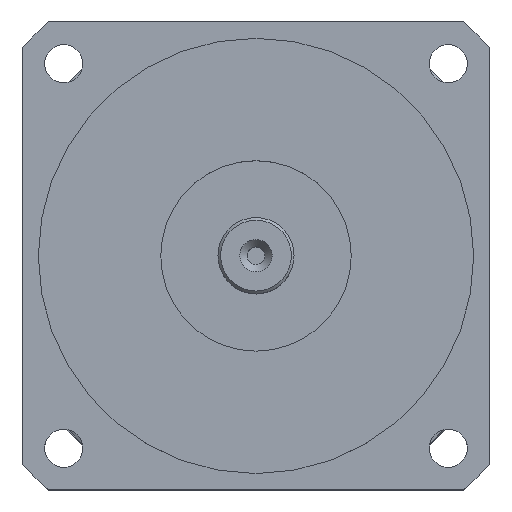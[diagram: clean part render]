
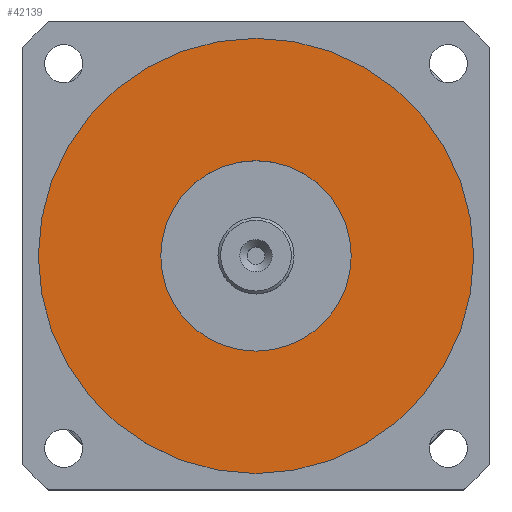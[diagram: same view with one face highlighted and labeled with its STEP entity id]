
A CAD part, top view. The second image highlights one B-rep face of the part: STEP entity #42139.
In plain terms, the highlighted planar face has unit normal (0, 0, 1).
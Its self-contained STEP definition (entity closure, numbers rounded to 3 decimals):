
#10689=VERTEX_POINT('',#54085);
#10690=VERTEX_POINT('',#54089);
#14619=CIRCLE('',#45299,17.5);
#14620=CIRCLE('',#45302,40.);
#16752=EDGE_CURVE('',#10689,#10689,#14619,.T.);
#16753=EDGE_CURVE('',#10690,#10690,#14620,.T.);
#23288=ORIENTED_EDGE('',*,*,#16753,.F.);
#23289=ORIENTED_EDGE('',*,*,#16752,.T.);
#35690=EDGE_LOOP('',(#23288));
#35691=EDGE_LOOP('',(#23289));
#38934=FACE_BOUND('',#35690,.T.);
#38935=FACE_BOUND('',#35691,.T.);
#42139=ADVANCED_FACE('',(#38934,#38935),#51767,.F.);
#45299=AXIS2_PLACEMENT_3D('',#54084,#136953,#136954);
#45302=AXIS2_PLACEMENT_3D('',#54088,#136958,#136959);
#45304=AXIS2_PLACEMENT_3D('',#54092,#136962,$);
#51767=PLANE('',#45304);
#54084=CARTESIAN_POINT('',(0.,0.,177.));
#54085=CARTESIAN_POINT('',(17.5,0.,177.));
#54088=CARTESIAN_POINT('',(0.,0.,177.));
#54089=CARTESIAN_POINT('',(40.,0.,177.));
#54092=CARTESIAN_POINT('',(0.,0.,177.));
#136953=DIRECTION('',(0.,0.,-1.));
#136954=DIRECTION('',(-17.5,0.,0.));
#136958=DIRECTION('',(0.,0.,-1.));
#136959=DIRECTION('',(-40.,0.,0.));
#136962=DIRECTION('',(0.,0.,-1.));
